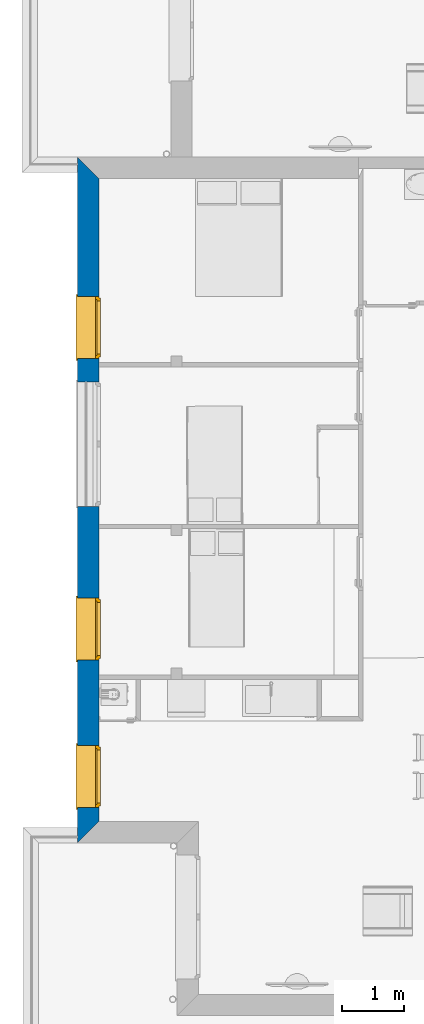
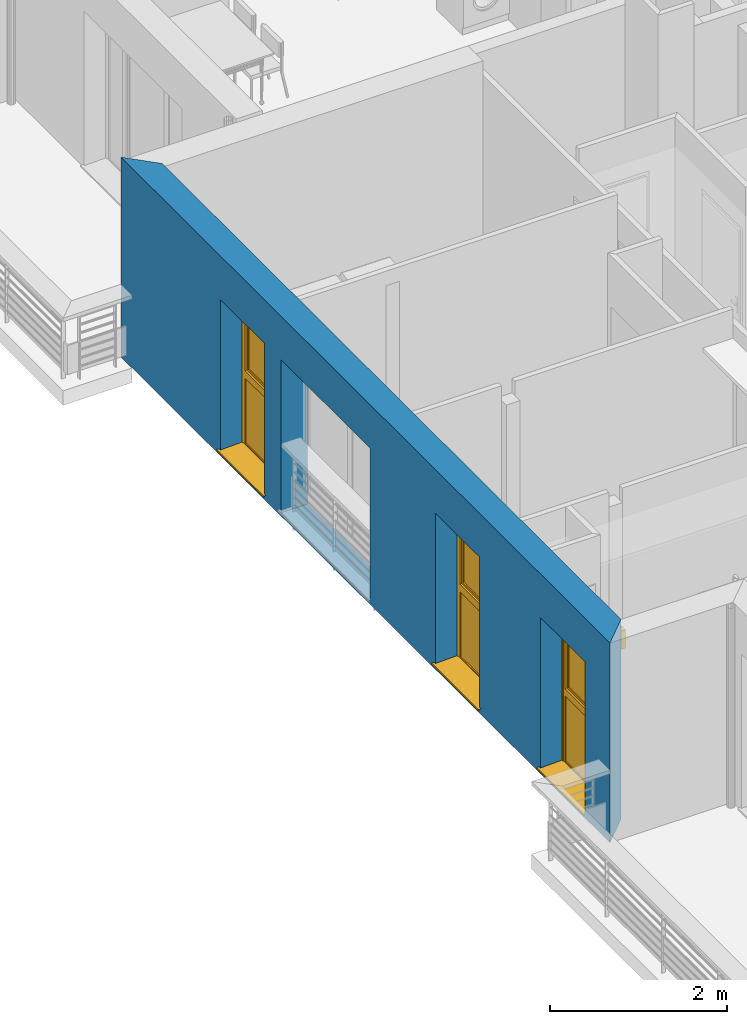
# One storey, part 8 of 164: 3 windows, 1 wall, 4 openings.
"""IFC2X3 building model written with IfcOpenShell, lengths in millimetres."""

import ifcopenshell
import ifcopenshell.guid

model = None  # the IFC model being written
_history = None  # IfcOwnerHistory: only IFC2X3 demands one
_inside = {}  # id of a spatial element -> (the spatial element, [elements in it])
_under = {}  # id of a project, library or spatial element -> (it, [spatial elements below it])
_declared = {}  # id of a project -> (the project, [libraries it declares])
_typed = {}  # id of a type object -> (the type object, [elements of that type])
_made_of = {}  # id of a material, layer set ... -> (it, [elements and type objects made of it])


def new_model(schema):
    """Start an empty IFC model of exactly this schema.

    Asked for "IFC4X3", IfcOpenShell would pick the latest addendum, in which some entities
    have other attributes; the version numbers below select the first issue.
    IFC2X3 requires an IfcOwnerHistory on every rooted entity: one is made here for all.
    """
    global model, _history
    if schema == "IFC4X3":
        model = ifcopenshell.file(schema_version=(4, 3, 0, 0))
    else:
        model = ifcopenshell.file(schema=schema)
    _inside.clear()
    _under.clear()
    _declared.clear()
    _typed.clear()
    _made_of.clear()
    _history = None
    if model.schema == "IFC2X3":
        org = make("IfcOrganization", Name="unknown")
        user = make(
            "IfcPersonAndOrganization",
            ThePerson=make("IfcPerson", FamilyName="unknown"),
            TheOrganization=org,
        )
        app = make(
            "IfcApplication",
            ApplicationDeveloper=org,
            Version="unknown",
            ApplicationFullName="unknown",
            ApplicationIdentifier="unknown",
        )
        _history = make(
            "IfcOwnerHistory",
            OwningUser=user,
            OwningApplication=app,
            ChangeAction="ADDED",
            CreationDate=0,
        )
    return model


def make(cls, **values):
    """One entity of the class cls with the attributes given. An attribute that is None is left unset."""
    return model.create_entity(
        cls, **{name: value for name, value in values.items() if value is not None}
    )


def entity(cls, *values):
    """Any entity or typed value of the class cls, its attributes in the order of the schema. None: left unset."""
    e = model.create_entity(cls)
    for i, value in enumerate(values):
        if value is not None:
            e[i] = value
    return e


def rooted(cls, **values):
    """An entity with a GlobalId (a new one), such as an element, a storey or a relation."""
    return make(cls, GlobalId=ifcopenshell.guid.new(), OwnerHistory=_history, **values)


def si_unit(unit_type, name, prefix=None):
    """IfcSIUnit, for example si_unit("LENGTHUNIT", "METRE", prefix="MILLI")."""
    return make("IfcSIUnit", UnitType=unit_type, Prefix=prefix, Name=name)


def converted_unit(unit_type, name, factor, base, dimensions=None, offset=None):
    """IfcConversionBasedUnit, such as the inch: factor (a typed value) times the base unit."""
    return make(
        "IfcConversionBasedUnit"
        if offset is None
        else "IfcConversionBasedUnitWithOffset",
        ConversionOffset=offset,
        Dimensions=None
        if dimensions is None
        else entity("IfcDimensionalExponents", *dimensions),
        UnitType=unit_type,
        Name=name,
        ConversionFactor=make(
            "IfcMeasureWithUnit", ValueComponent=factor, UnitComponent=base
        ),
    )


def derived_unit(unit_type, elements):
    """IfcDerivedUnit: a product of units, each with its exponent."""
    return make(
        "IfcDerivedUnit",
        Elements=[
            make("IfcDerivedUnitElement", Unit=unit, Exponent=power)
            for unit, power in elements
        ],
        UnitType=unit_type,
    )


def money_unit(currency):
    """IfcMonetaryUnit."""
    return make("IfcMonetaryUnit", Currency=currency)


def assignment(units):
    """IfcUnitAssignment: the units of a project."""
    return None if units is None else make("IfcUnitAssignment", Units=units)


def point(xyz):
    """IfcCartesianPoint."""
    return None if xyz is None else make("IfcCartesianPoint", Coordinates=xyz)


def direction(xyz):
    """IfcDirection."""
    return None if xyz is None else make("IfcDirection", DirectionRatios=xyz)


def frame(location, z_axis=None, x_axis=None):
    """IfcAxis2Placement3D, a coordinate frame: its origin and axes. An axis left out is left unset."""
    return make(
        "IfcAxis2Placement3D",
        Location=point(location),
        Axis=direction(z_axis),
        RefDirection=direction(x_axis),
    )


def origin_with_axes():
    """The frame at (0, 0, 0) with the z axis (0, 0, 1) and the x axis (1, 0, 0) written out."""
    return frame((0.0, 0.0, 0.0), z_axis=(0.0, 0.0, 1.0), x_axis=(1.0, 0.0, 0.0))


def place(relative_to, where):
    """IfcLocalPlacement: puts the frame where relative to a parent placement (None: the world)."""
    return make(
        "IfcLocalPlacement", PlacementRelTo=relative_to, RelativePlacement=where
    )


def context(
    kind, dimensions, precision=None, world=None, true_north=None, identifier=None
):
    """IfcGeometricRepresentationContext, for example the 3D "Model" context."""
    return make(
        "IfcGeometricRepresentationContext",
        ContextIdentifier=identifier,
        ContextType=kind,
        CoordinateSpaceDimension=dimensions,
        Precision=precision,
        WorldCoordinateSystem=world,
        TrueNorth=true_north,
    )


def subcontext(parent, identifier, kind, view, scale=None):
    """IfcGeometricRepresentationSubContext, for example "Body" below "Model"."""
    return make(
        "IfcGeometricRepresentationSubContext",
        ContextIdentifier=identifier,
        ContextType=kind,
        ParentContext=parent,
        TargetScale=scale,
        TargetView=view,
    )


def project(units=None, contexts=None):
    """IfcProject with its units and contexts."""
    return rooted(
        "IfcProject",
        Name="project",
        RepresentationContexts=contexts,
        UnitsInContext=assignment(units),
    )


def spatial(cls, under=None, at=None, **own):
    """A site, building, storey or space (cls), placed at a placement, below another one or the project."""
    s = rooted(cls, ObjectPlacement=at, **own)
    if under is not None:
        _under.setdefault(under.id(), (under, []))[1].append(s)
    return s


def polyline(points):
    """IfcPolyline through the points."""
    return make("IfcPolyline", Points=[point(p) for p in points])


def outline(outer, holes=None, kind="AREA"):
    """IfcArbitraryClosedProfileDef: a profile drawn as a closed curve; with holes, ...WithVoids."""
    if holes is None:
        return make("IfcArbitraryClosedProfileDef", ProfileType=kind, OuterCurve=outer)
    return make(
        "IfcArbitraryProfileDefWithVoids",
        ProfileType=kind,
        OuterCurve=outer,
        InnerCurves=holes,
    )


def extrude(swept, where, along, depth):
    """IfcExtrudedAreaSolid: the profile swept, set in the frame where, extruded along a direction by depth."""
    return make(
        "IfcExtrudedAreaSolid",
        SweptArea=swept,
        Position=where,
        ExtrudedDirection=direction(along),
        Depth=depth,
    )


def faces_of(points, faces, orient=None, outer=None):
    """IfcFace entities. A face is a list of loops; a loop is a list of indices into points, from 0.

    orient and outer hold one flag for each loop. By default every Orientation is true, the
    first loop of a face is its IfcFaceOuterBound and the others are IfcFaceBound.
    """
    made = []
    for i, loops in enumerate(faces):
        bounds = []
        for j, loop in enumerate(loops):
            is_outer = j == 0 if outer is None else outer[i][j]
            bounds.append(
                make(
                    "IfcFaceOuterBound" if is_outer else "IfcFaceBound",
                    Bound=make("IfcPolyLoop", Polygon=[points[k] for k in loop]),
                    Orientation=True if orient is None else orient[i][j],
                )
            )
        made.append(make("IfcFace", Bounds=bounds))
    return made


def open_shell(faces, orient=None, outer=None):
    """The faces of one IfcOpenShell. surface_model builds it on its shared points."""
    return ("IfcOpenShell", faces, orient, outer)


def faceted_brep(points, faces, orient=None, outer=None, voids=None):
    """IfcFacetedBrep: a solid bounded by flat faces; with voids (closed shells), ...WithVoids."""
    shared = [point(p) for p in points]
    hull = make("IfcClosedShell", CfsFaces=faces_of(shared, faces, orient, outer))
    if voids is None:
        return make("IfcFacetedBrep", Outer=hull)
    return make(
        "IfcFacetedBrepWithVoids",
        Outer=hull,
        Voids=[
            make(cls, CfsFaces=faces_of(shared, fs, o, b)) for cls, fs, o, b in voids
        ],
    )


def surface_model(cls, points, shells):
    """IfcFaceBasedSurfaceModel or IfcShellBasedSurfaceModel (cls): surfaces that need not close."""
    shared = [point(p) for p in points]
    made = [make(c, CfsFaces=faces_of(shared, fs, o, b)) for c, fs, o, b in shells]
    if cls == "IfcFaceBasedSurfaceModel":
        return make(cls, FbsmFaces=made)
    return make(cls, SbsmBoundary=made)


def shape(context_of_items, identifier, shape_type, items):
    """IfcShapeRepresentation: the items that make up one representation, for example the "Body"."""
    return make(
        "IfcShapeRepresentation",
        ContextOfItems=context_of_items,
        RepresentationIdentifier=identifier,
        RepresentationType=shape_type,
        Items=items,
    )


def source(mapping_origin, context_of_items, identifier, shape_type, items):
    """IfcRepresentationMap: a shape defined once, which mapped items show again and again."""
    return make(
        "IfcRepresentationMap",
        MappingOrigin=mapping_origin,
        MappedRepresentation=shape(context_of_items, identifier, shape_type, items),
    )


def transform(
    local_origin,
    x_axis=None,
    y_axis=None,
    z_axis=None,
    scale=None,
    scale2=None,
    scale3=None,
    uniform=True,
):
    """IfcCartesianTransformationOperator3D, or its non-uniform kind. x_axis, y_axis, z_axis: its Axis1, 2, 3."""
    if uniform:
        return make(
            "IfcCartesianTransformationOperator3D",
            Axis1=direction(x_axis),
            Axis2=direction(y_axis),
            LocalOrigin=point(local_origin),
            Scale=scale,
            Axis3=direction(z_axis),
        )
    return make(
        "IfcCartesianTransformationOperator3DnonUniform",
        Axis1=direction(x_axis),
        Axis2=direction(y_axis),
        LocalOrigin=point(local_origin),
        Scale=scale,
        Axis3=direction(z_axis),
        Scale2=scale2,
        Scale3=scale3,
    )


def mapped(mapping_source, mapping_target):
    """IfcMappedItem: shows the shape of a source again, moved by a transform."""
    return make(
        "IfcMappedItem", MappingSource=mapping_source, MappingTarget=mapping_target
    )


def material(Name=None, Category=None):
    """IfcMaterial."""
    return make("IfcMaterial", Name=Name, Category=Category)


def layer(
    of_material, thickness, ventilated=None, Name=None, Category=None, Priority=None
):
    """IfcMaterialLayer: one layer of a wall or slab, of a material (None: an air gap)."""
    return make(
        "IfcMaterialLayer",
        Material=of_material,
        LayerThickness=thickness,
        IsVentilated=ventilated,
        Name=Name,
        Category=Category,
        Priority=Priority,
    )


def layer_set(layers, Name=None):
    """IfcMaterialLayerSet."""
    return make("IfcMaterialLayerSet", MaterialLayers=layers, LayerSetName=Name)


def layer_usage(for_layer_set, set_direction, sense, offset, extent=None):
    """IfcMaterialLayerSetUsage: how a layer set lies in its element."""
    return make(
        "IfcMaterialLayerSetUsage",
        ForLayerSet=for_layer_set,
        LayerSetDirection=set_direction,
        DirectionSense=sense,
        OffsetFromReferenceLine=offset,
        ReferenceExtent=extent,
    )


def made_of(thing, what):
    """Note that an element or type object is made of a material, layer set ...; save() writes the relation."""
    if what is not None:
        _made_of.setdefault(what.id(), (what, []))[1].append(thing)
    return thing


def type_object(cls, material=None, **own):
    """A type object (cls), such as IfcWallType, which elements share."""
    return made_of(rooted(cls, **own), material)


def element(
    cls,
    number,
    at=None,
    inside=None,
    cuts=None,
    type_object=None,
    material=None,
    context=None,
    identifier="Body",
    shape_type=None,
    held_by="IfcProductDefinitionShape",
    body=None,
    shapes=None,
    **own,
):
    """One element of the class cls, such as IfcWall. Its Tag is "e" and its number.

    at: its placement. inside: the storey or other place that contains it. cuts: it is an
    opening in that element (IfcRelVoidsElement). A single representation is given by context,
    identifier, shape_type and body (its items); several are given by shapes. held_by: the class
    of the entity that holds the representations. save() writes the other relations.
    """
    e = rooted(cls, Tag="e%d" % number, ObjectPlacement=at, **own)
    if body is not None:
        shapes = [shape(context, identifier, shape_type, body)]
    if shapes is not None:
        e.Representation = make(held_by, Representations=shapes)
    if inside is not None:
        _inside.setdefault(inside.id(), (inside, []))[1].append(e)
    if cuts is not None:
        rooted(
            "IfcRelVoidsElement", RelatingBuildingElement=cuts, RelatedOpeningElement=e
        )
    if type_object is not None:
        _typed.setdefault(type_object.id(), (type_object, []))[1].append(e)
    return made_of(e, material)


def fill(opening, filler):
    """IfcRelFillsElement: the door or window that sits in an opening."""
    return rooted(
        "IfcRelFillsElement",
        RelatingOpeningElement=opening,
        RelatedBuildingElement=filler,
    )


def aggregate(whole, parts):
    """IfcRelAggregates: a whole, such as a stair, and the parts it consists of."""
    return rooted("IfcRelAggregates", RelatingObject=whole, RelatedObjects=parts)


def save(model, path):
    """Write the relations noted so far, then the file.

    IfcRelAggregates (storeys below a building ...), IfcRelContainedInSpatialStructure (elements
    in a storey), IfcRelDefinesByType, IfcRelAssociatesMaterial and IfcRelDeclares: one each for
    every whole, place, type object, material and project.
    """
    for whole, parts in _under.values():
        aggregate(whole, parts)
    for where, things in _inside.values():
        rooted(
            "IfcRelContainedInSpatialStructure",
            RelatedElements=things,
            RelatingStructure=where,
        )
    for kind, things in _typed.values():
        rooted("IfcRelDefinesByType", RelatedObjects=things, RelatingType=kind)
    for what, things in _made_of.values():
        rooted("IfcRelAssociatesMaterial", RelatedObjects=things, RelatingMaterial=what)
    for by, libraries in _declared.values():
        rooted("IfcRelDeclares", RelatingContext=by, RelatedDefinitions=libraries)
    model.write(path)


model = new_model("IFC2X3")

# Units and contexts
model_context = context("Model", 3, precision=0.01, world=origin_with_axes(), true_north=direction((0.0, 1.0)))
body_context = subcontext(model_context, "Body", "Model", "MODEL_VIEW")
ifc_project = project(units=[si_unit("LENGTHUNIT", "METRE", prefix="MILLI"), si_unit("AREAUNIT", "SQUARE_METRE"), si_unit("VOLUMEUNIT", "CUBIC_METRE"), converted_unit("PLANEANGLEUNIT", "DEGREE", entity("IfcPlaneAngleMeasure", 0.0174532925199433), si_unit("PLANEANGLEUNIT", "RADIAN"), dimensions=[0, 0, 0, 0, 0, 0, 0]), money_unit("USD"), converted_unit("TIMEUNIT", "Year", entity("IfcTimeMeasure", 31557600.0), si_unit("TIMEUNIT", "SECOND"), dimensions=[0, 0, 1, 0, 0, 0, 0]), si_unit("MASSUNIT", "GRAM", prefix="KILO"), si_unit("THERMODYNAMICTEMPERATUREUNIT", "DEGREE_CELSIUS"), si_unit("LUMINOUSINTENSITYUNIT", "LUMEN"), si_unit("ENERGYUNIT", "JOULE", prefix="MEGA"), derived_unit("THERMALCONDUCTANCEUNIT", [(si_unit("POWERUNIT", "WATT"), 1), (si_unit("LENGTHUNIT", "METRE"), -1), (si_unit("THERMODYNAMICTEMPERATUREUNIT", "KELVIN"), -1)]), derived_unit("SPECIFICHEATCAPACITYUNIT", [(si_unit("ENERGYUNIT", "JOULE"), 1), (si_unit("MASSUNIT", "GRAM", prefix="KILO"), -1), (si_unit("THERMODYNAMICTEMPERATUREUNIT", "KELVIN"), -1)]), derived_unit("MASSDENSITYUNIT", [(si_unit("MASSUNIT", "GRAM", prefix="KILO"), 1), (si_unit("VOLUMEUNIT", "CUBIC_METRE"), -1)])], contexts=[model_context])

# Site, building, storey
site_placement = place(None, origin_with_axes())
site = spatial("IfcSite", under=ifc_project, at=site_placement, Name="Site", CompositionType="ELEMENT")
building_placement = place(site_placement, origin_with_axes())
building = spatial("IfcBuilding", under=site, at=building_placement, Name="Bâtiment", CompositionType="ELEMENT")
storey_placement = place(building_placement, frame((0.0, 0.0, 5750.0), z_axis=(0.0, 0.0, 1.0), x_axis=(1.0, 0.0, 0.0)))
storey = spatial("IfcBuildingStorey", under=building, at=storey_placement, Name="Etage1", CompositionType="ELEMENT", Elevation=5750.0)

# Wall, openings, windows
ifc_material_1 = material(Name="Parpaing 312445824")
ifc_layer_1 = layer(ifc_material_1, 180.0, ventilated="UNKNOWN")
ifc_material_2 = material(Name="Isolant styromousse 301821074")
ifc_layer_2 = layer(ifc_material_2, 160.0, ventilated="UNKNOWN")
ifc_layer_set = layer_set([ifc_layer_1, ifc_layer_2], Name="isol int 18+16 0018356637")
ifc_layer_usage = layer_usage(ifc_layer_set, "AXIS2", "POSITIVE", 0.0)
wall_type = type_object("IfcWallType", Name="isol int 18+16 0018356637 340", PredefinedType="NOTDEFINED")
wall_placement = place(storey_placement, frame((2216634.233344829, -644016.3765232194, 0.0), z_axis=(0.0, 0.0, 1.0), x_axis=(0.0, -1.0, 0.0)))
wall = element("IfcWallStandardCase", 1, at=wall_placement, inside=storey, type_object=wall_type, material=ifc_layer_usage, Name="Mur-145", context=body_context, shape_type="SweptSolid", body=[
    extrude(outline(polyline([(0.0, 0.0), (11025.09125507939, 0.0), (10685.09125507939, 340.0000000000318), (339.9999957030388, 340.0000000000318), (0.0, 0.0)])), origin_with_axes(), (0.0, 0.0, 1.0), 2750.0),
])
opening_1_placement = place(wall_placement, frame((2741.247963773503, 1.13686837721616e-10, 49.99999999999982), z_axis=(0.0, 0.0, 1.0), x_axis=(1.0, 0.0, 0.0)))
opening_1 = element("IfcOpeningElement", 2, at=opening_1_placement, cuts=wall, Name="Fen-133", context=body_context, shape_type="Brep", body=[
    faceted_brep([(-500.0, 290.0000000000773, 2100.0), (-500.0, 341.0000000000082, 2100.0), (-500.0, 341.0000000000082, 0.0), (-500.0, 290.0000000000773, 0.0), (-500.0, 280.0000000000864, 2100.0), (-500.0, 280.0000000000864, 2350.0), (-500.0, 530.0000000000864, 2350.0), (-500.0, 530.0000000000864, 2100.0), (500.0, 341.0000000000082, 2100.0), (500.0, 341.0000000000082, 0.0), (500.0, 290.0000000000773, 0.0), (500.0, -0.9999999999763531, 0.0), (-500.0, -0.9999999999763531, 0.0), (-500.0, -0.9999999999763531, 2100.0), (500.0, 280.0000000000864, 2100.0), (500.0, 280.0000000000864, 2350.0), (500.0, 530.0000000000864, 2350.0), (500.0, 530.0000000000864, 2100.0), (500.0, 290.0000000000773, 2100.0), (500.0, -0.9999999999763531, 2100.0)], [[[0, 1, 2, 3]], [[1, 0, 4, 5, 6, 7]], [[1, 8, 9, 2]], [[10, 11, 12, 3, 2, 9]], [[4, 0, 3, 12, 13]], [[4, 14, 15, 5]], [[15, 16, 6, 5]], [[16, 17, 7, 6]], [[8, 1, 7, 17]], [[8, 18, 10, 9]], [[18, 14, 19, 11, 10]], [[13, 12, 11, 19]], [[14, 4, 13, 19]], [[18, 8, 17, 16, 15, 14]]]),
])
opening_2_placement = place(wall_placement, frame((7587.273470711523, 1.13686837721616e-10, 49.99999999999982), z_axis=(0.0, 0.0, 1.0), x_axis=(1.0, 0.0, 0.0)))
opening_2 = element("IfcOpeningElement", 3, at=opening_2_placement, cuts=wall, Name="Fen-133", context=body_context, shape_type="Brep", body=[
    faceted_brep([(-500.0, 290.0000000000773, 2100.0), (-500.0, 341.0000000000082, 2100.0), (-500.0, 341.0000000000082, 0.0), (-500.0, 290.0000000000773, 0.0), (-500.0, 280.0000000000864, 2100.0), (-500.0, 280.0000000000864, 2350.0), (-500.0, 530.0000000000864, 2350.0), (-500.0, 530.0000000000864, 2100.0), (500.0, 341.0000000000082, 2100.0), (500.0, 341.0000000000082, 0.0), (500.0, 290.0000000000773, 0.0), (500.0, -0.9999999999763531, 0.0), (-500.0, -0.9999999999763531, 0.0), (-500.0, -0.9999999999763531, 2100.0), (500.0, 280.0000000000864, 2100.0), (500.0, 280.0000000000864, 2350.0), (500.0, 530.0000000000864, 2350.0), (500.0, 530.0000000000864, 2100.0), (500.0, 290.0000000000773, 2100.0), (500.0, -0.9999999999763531, 2100.0)], [[[0, 1, 2, 3]], [[1, 0, 4, 5, 6, 7]], [[1, 8, 9, 2]], [[10, 11, 12, 3, 2, 9]], [[4, 0, 3, 12, 13]], [[4, 14, 15, 5]], [[15, 16, 6, 5]], [[16, 17, 7, 6]], [[8, 1, 7, 17]], [[8, 18, 10, 9]], [[18, 14, 19, 11, 10]], [[13, 12, 11, 19]], [[14, 4, 13, 19]], [[18, 8, 17, 16, 15, 14]]]),
])
opening_3_placement = place(wall_placement, frame((4613.390906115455, 1.13686837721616e-10, 49.99999999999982), z_axis=(0.0, 0.0, 1.0), x_axis=(1.0, 0.0, 0.0)))
element("IfcOpeningElement", 4, at=opening_3_placement, cuts=wall, Name="Fen-207", context=body_context, shape_type="Brep", body=[
    faceted_brep([(-1000.0, 290.0000000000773, 2100.0), (-1000.0, 341.0000000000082, 2100.0), (-1000.0, 341.0000000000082, 0.0), (-1000.0, 290.0000000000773, 0.0), (-1000.0, 280.0000000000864, 2100.0), (-1000.0, 280.0000000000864, 2350.0), (-1000.0, 530.0000000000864, 2350.0), (-1000.0, 530.0000000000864, 2100.0), (1000.0, 341.0000000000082, 2100.0), (1000.0, 341.0000000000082, 0.0), (1000.0, 290.0000000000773, 0.0), (1000.0, -0.9999999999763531, 0.0), (-1000.0, -0.9999999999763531, 0.0), (-1000.0, -0.9999999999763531, 2100.0), (1000.0, 280.0000000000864, 2100.0), (1000.0, 280.0000000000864, 2350.0), (1000.0, 530.0000000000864, 2350.0), (1000.0, 530.0000000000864, 2100.0), (1000.0, 290.0000000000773, 2100.0), (1000.0, -0.9999999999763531, 2100.0)], [[[0, 1, 2, 3]], [[1, 0, 4, 5, 6, 7]], [[1, 8, 9, 2]], [[10, 11, 12, 3, 2, 9]], [[4, 0, 3, 12, 13]], [[4, 14, 15, 5]], [[6, 5, 15, 16]], [[7, 6, 16, 17]], [[8, 1, 7, 17]], [[8, 18, 10, 9]], [[18, 14, 19, 11, 10]], [[13, 12, 11, 19]], [[14, 4, 13, 19]], [[18, 8, 17, 16, 15, 14]]]),
])
opening_4_placement = place(wall_placement, frame((9957.84302010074, 1.13686837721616e-10, 49.99999999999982), z_axis=(0.0, 0.0, 1.0), x_axis=(1.0, 0.0, 0.0)))
opening_4 = element("IfcOpeningElement", 5, at=opening_4_placement, cuts=wall, Name="Fen-133", context=body_context, shape_type="Brep", body=[
    faceted_brep([(-500.0, 290.0000000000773, 2100.0), (-500.0, 341.0000000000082, 2100.0), (-500.0, 341.0000000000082, 0.0), (-500.0, 290.0000000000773, 0.0), (-500.0, 280.0000000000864, 2100.0), (-500.0, 280.0000000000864, 2350.0), (-500.0, 530.0000000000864, 2350.0), (-500.0, 530.0000000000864, 2100.0), (500.0, 341.0000000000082, 2100.0), (500.0, 341.0000000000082, 0.0), (500.0, 290.0000000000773, 0.0), (500.0, -0.9999999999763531, 0.0), (-500.0, -0.9999999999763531, 0.0), (-500.0, -0.9999999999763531, 2100.0), (500.0, 280.0000000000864, 2100.0), (500.0, 280.0000000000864, 2350.0), (500.0, 530.0000000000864, 2350.0), (500.0, 530.0000000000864, 2100.0), (500.0, 290.0000000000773, 2100.0), (500.0, -0.9999999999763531, 2100.0)], [[[0, 1, 2, 3]], [[1, 0, 4, 5, 6, 7]], [[1, 8, 9, 2]], [[10, 11, 12, 3, 2, 9]], [[4, 0, 3, 12, 13]], [[4, 14, 15, 5]], [[15, 16, 6, 5]], [[16, 17, 7, 6]], [[8, 1, 7, 17]], [[8, 18, 10, 9]], [[18, 14, 19, 11, 10]], [[13, 12, 11, 19]], [[14, 4, 13, 19]], [[18, 8, 17, 16, 15, 14]]]),
])
window_style = type_object("IfcWindowStyle", Name="Fenêtre 27", ConstructionType="NOTDEFINED", OperationType="DOUBLE_PANEL_HORIZONTAL", ParameterTakesPrecedence=False, Sizeable=False)
shared_shape = source(origin_with_axes(), body_context, "Body", "SurfaceModel", [
    surface_model("IfcShellBasedSurfaceModel", [(500.0, -51.00000000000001, 40.00000000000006), (500.0, -51.00000000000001, 50.00000000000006), (-500.0, -51.00000000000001, 50.0), (-500.0, -51.00000000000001, 40.0), (530.0, -369.9999999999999, 28.96551724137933), (530.0, -339.9999999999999, 30.00324289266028), (500.0, -339.9999999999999, 30.00324289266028), (-500.0, -339.9999999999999, 30.00324289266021), (-530.0, -339.9999999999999, 30.00324289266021), (-530.0, -369.9999999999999, 28.96551724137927), (530.0, -369.9999999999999, 8.96551724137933), (-530.0, -369.9999999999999, 8.965517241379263), (530.0, -359.9999999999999, 18.96551724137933), (-530.0, -359.9999999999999, 18.96551724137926)], [open_shell([[[0, 1, 2, 3]], [[4, 5, 6, 0, 3, 7, 8, 9]], [[10, 4, 9, 11]], [[12, 10, 11, 13]]])]),
    faceted_brep([(-500.0, -59.99999999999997, 2350.0), (-497.0, -59.99999999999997, 2350.0), (-497.0, 190.0, 2350.0), (-500.0, 190.0, 2350.0), (-500.0, -59.99999999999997, 2100.0), (-497.0, -59.99999999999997, 2100.0), (-497.0, 190.0, 2100.0), (-500.0, 190.0, 2100.0)], [[[0, 1, 2, 3]], [[4, 5, 1, 0]], [[1, 5, 6, 2]], [[3, 2, 6, 7]], [[0, 3, 7, 4]], [[7, 6, 5, 4]]]),
    faceted_brep([(497.0, -59.99999999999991, 2350.0), (500.0, -59.99999999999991, 2350.0), (500.0, 190.0000000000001, 2350.0), (497.0, 190.0000000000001, 2350.0), (497.0, -59.99999999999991, 2100.0), (500.0, -59.99999999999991, 2100.0), (500.0, 190.0000000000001, 2100.0), (497.0, 190.0000000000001, 2100.0)], [[[0, 1, 2, 3]], [[4, 5, 1, 0]], [[1, 5, 6, 2]], [[3, 2, 6, 7]], [[0, 3, 7, 4]], [[7, 6, 5, 4]]]),
    faceted_brep([(-497.0, -60.0, 2100.0), (497.0, -59.99999999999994, 2100.0), (497.0, -59.99999999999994, 2350.0), (-497.0, -60.0, 2350.0), (-497.0, -56.99999999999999, 2100.0), (497.0, -56.99999999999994, 2100.0), (497.0, -56.99999999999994, 2347.0), (497.0, 187.0000000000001, 2347.0), (497.0, 187.0000000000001, 2103.0), (497.0, -37.99999999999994, 2103.0), (497.0, -37.99999999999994, 2100.0), (497.0, 190.0000000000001, 2100.0), (497.0, 190.0000000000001, 2350.0), (-497.0, 190.0, 2350.0), (-497.0, 190.0, 2100.0), (-497.0, -37.99999999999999, 2100.0), (-497.0, -37.99999999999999, 2103.0), (-497.0, 187.0, 2103.0), (-497.0, 187.0, 2347.0), (-497.0, -56.99999999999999, 2347.0)], [[[0, 1, 2, 3]], [[4, 5, 1, 0]], [[1, 5, 6, 7, 8, 9, 10, 11, 12, 2]], [[3, 2, 12, 13]], [[0, 3, 13, 14, 15, 16, 17, 18, 19, 4]], [[19, 6, 5, 4]], [[18, 7, 6, 19]], [[17, 8, 7, 18]], [[16, 9, 8, 17]], [[15, 10, 9, 16]], [[14, 11, 10, 15]], [[13, 12, 11, 14]]]),
    faceted_brep([(-494.0, -40.37442957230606, 2206.419644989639), (-494.0, -41.99999999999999, 2225.0), (-494.0, -40.37442957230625, 2243.580355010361), (-494.0, -35.54711042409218, 2261.596155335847), (-494.0, -27.66471820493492, 2278.5), (-494.0, -16.96675541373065, 2293.77827423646), (-494.0, -3.778274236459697, 2306.966755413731), (-494.0, 11.5, 2317.664718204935), (-494.0, 28.40384466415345, 2325.547110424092), (-494.0, 46.41964498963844, 2330.374429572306), (-494.0, 64.99999999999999, 2332.0), (-494.0, 83.58035501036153, 2330.374429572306), (-494.0, 101.5961553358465, 2325.547110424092), (-494.0, 118.5, 2317.664718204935), (-494.0, 133.7782742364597, 2306.966755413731), (-494.0, 146.9667554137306, 2293.77827423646), (-494.0, 157.6647182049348, 2278.5), (-494.0, 165.5471104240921, 2261.596155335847), (-494.0, 170.3744295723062, 2243.580355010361), (-494.0, 171.9999999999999, 2225.0), (-494.0, 170.3744295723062, 2206.419644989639), (-494.0, 165.5471104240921, 2188.403844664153), (-494.0, 157.6647182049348, 2171.5), (-494.0, 146.9667554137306, 2156.22172576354), (-494.0, 133.7782742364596, 2143.03324458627), (-494.0, 118.4999999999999, 2132.335281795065), (-494.0, 101.5961553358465, 2124.452889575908), (-494.0, 83.58035501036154, 2119.625570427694), (-494.0, 65.00000000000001, 2118.0), (-494.0, 46.4196449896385, 2119.625570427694), (-494.0, 28.40384466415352, 2124.452889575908), (-494.0, 11.50000000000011, 2132.335281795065), (-494.0, -3.778274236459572, 2143.03324458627), (-494.0, -16.9667554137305, 2156.22172576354), (-494.0, -27.66471820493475, 2171.5), (-494.0, -35.54711042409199, 2188.403844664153), (494.0, -40.374429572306, 2206.419644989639), (494.0, -41.99999999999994, 2225.0), (494.0, -40.37442957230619, 2243.580355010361), (494.0, -35.54711042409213, 2261.596155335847), (494.0, -27.66471820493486, 2278.5), (494.0, -16.96675541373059, 2293.77827423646), (494.0, -3.778274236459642, 2306.966755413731), (494.0, 11.50000000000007, 2317.664718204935), (494.0, 28.40384466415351, 2325.547110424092), (494.0, 46.41964498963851, 2330.374429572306), (494.0, 65.00000000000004, 2332.0), (494.0, 83.58035501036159, 2330.374429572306), (494.0, 101.5961553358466, 2325.547110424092), (494.0, 118.5, 2317.664718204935), (494.0, 133.7782742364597, 2306.966755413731), (494.0, 146.9667554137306, 2293.77827423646), (494.0, 157.6647182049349, 2278.5), (494.0, 165.5471104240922, 2261.596155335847), (494.0, 170.3744295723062, 2243.580355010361), (494.0, 172.0, 2225.0), (494.0, 170.3744295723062, 2206.419644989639), (494.0, 165.5471104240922, 2188.403844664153), (494.0, 157.6647182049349, 2171.5), (494.0, 146.9667554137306, 2156.22172576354), (494.0, 133.7782742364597, 2143.03324458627), (494.0, 118.5, 2132.335281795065), (494.0, 101.5961553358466, 2124.452889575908), (494.0, 83.5803550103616, 2119.625570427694), (494.0, 65.00000000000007, 2118.0), (494.0, 46.41964498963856, 2119.625570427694), (494.0, 28.40384466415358, 2124.452889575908), (494.0, 11.50000000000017, 2132.335281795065), (494.0, -3.778274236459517, 2143.03324458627), (494.0, -16.96675541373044, 2156.22172576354), (494.0, -27.6647182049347, 2171.5), (494.0, -35.54711042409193, 2188.403844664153)], [[[0, 1, 2, 3, 4, 5, 6, 7, 8, 9, 10, 11, 12, 13, 14, 15, 16, 17, 18, 19, 20, 21, 22, 23, 24, 25, 26, 27, 28, 29, 30, 31, 32, 33, 34, 35]], [[0, 36, 37, 1]], [[1, 37, 38, 2]], [[2, 38, 39, 3]], [[3, 39, 40, 4]], [[4, 40, 41, 5]], [[5, 41, 42, 6]], [[6, 42, 43, 7]], [[7, 43, 44, 8]], [[8, 44, 45, 9]], [[9, 45, 46, 10]], [[10, 46, 47, 11]], [[11, 47, 48, 12]], [[12, 48, 49, 13]], [[13, 49, 50, 14]], [[14, 50, 51, 15]], [[15, 51, 52, 16]], [[16, 52, 53, 17]], [[17, 53, 54, 18]], [[18, 54, 55, 19]], [[19, 55, 56, 20]], [[20, 56, 57, 21]], [[21, 57, 58, 22]], [[22, 58, 59, 23]], [[23, 59, 60, 24]], [[24, 60, 61, 25]], [[25, 61, 62, 26]], [[26, 62, 63, 27]], [[27, 63, 64, 28]], [[28, 64, 65, 29]], [[29, 65, 66, 30]], [[30, 66, 67, 31]], [[31, 67, 68, 32]], [[32, 68, 69, 33]], [[33, 69, 70, 34]], [[34, 70, 71, 35]], [[35, 71, 36, 0]], [[36, 71, 70, 69, 68, 67, 66, 65, 64, 63, 62, 61, 60, 59, 58, 57, 56, 55, 54, 53, 52, 51, 50, 49, 48, 47, 46, 45, 44, 43, 42, 41, 40, 39, 38, 37]]]),
    faceted_brep([(500.0, -34.99999999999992, 30.0), (500.0, -34.99999999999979, 2100.0), (500.0, -59.99999999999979, 2100.0), (500.0, -59.99999999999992, 30.0), (475.0, -34.99999999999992, 30.0), (475.0, -34.99999999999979, 2100.0), (475.0, -37.99999999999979, 2100.0), (497.0, -37.99999999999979, 2100.0), (497.0, -56.99999999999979, 2100.0), (475.0, -56.99999999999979, 2100.0), (475.0, -59.99999999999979, 2100.0), (475.0, -59.99999999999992, 30.0), (475.0, -56.99999999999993, 30.0), (497.0, -56.99999999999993, 30.0), (497.0, -37.99999999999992, 30.0), (475.0, -37.99999999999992, 30.0)], [[[0, 1, 2, 3]], [[4, 5, 1, 0]], [[1, 5, 6, 7, 8, 9, 10, 2]], [[3, 2, 10, 11]], [[0, 3, 11, 12, 13, 14, 15, 4]], [[15, 6, 5, 4]], [[14, 7, 6, 15]], [[13, 8, 7, 14]], [[12, 9, 8, 13]], [[11, 10, 9, 12]]]),
    faceted_brep([(-500.0, -34.99999999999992, 30.0), (-500.0, -59.99999999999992, 30.0), (-500.0, -59.99999999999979, 2100.0), (-500.0, -34.99999999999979, 2100.0), (-475.0, -34.99999999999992, 30.0), (-475.0, -37.99999999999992, 30.0), (-497.0, -37.99999999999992, 30.0), (-497.0, -56.99999999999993, 30.0), (-475.0, -56.99999999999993, 30.0), (-475.0, -59.99999999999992, 30.0), (-475.0, -59.99999999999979, 2100.0), (-475.0, -56.99999999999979, 2100.0), (-497.0, -56.99999999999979, 2100.0), (-497.0, -37.99999999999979, 2100.0), (-475.0, -37.99999999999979, 2100.0), (-475.0, -34.99999999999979, 2100.0)], [[[0, 1, 2, 3]], [[0, 4, 5, 6, 7, 8, 9, 1]], [[1, 9, 10, 2]], [[3, 2, 10, 11, 12, 13, 14, 15]], [[4, 0, 3, 15]], [[5, 4, 15, 14]], [[6, 5, 14, 13]], [[7, 6, 13, 12]], [[8, 7, 12, 11]], [[9, 8, 11, 10]]]),
    faceted_brep([(497.0, -46.66666666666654, 2225.0), (497.0, -46.66666666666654, 2216.666666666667), (-497.0, -46.6666666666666, 2216.666666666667), (-497.0, -46.6666666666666, 2225.0), (497.0, -51.66666666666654, 2225.0), (497.0, -51.66666666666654, 2216.666666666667), (497.0, -49.99999999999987, 2200.0), (497.0, -44.99999999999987, 2200.0), (-497.0, -44.99999999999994, 2200.0), (-497.0, -49.99999999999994, 2200.0), (-497.0, -51.6666666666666, 2216.666666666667), (-497.0, -51.6666666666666, 2225.0)], [[[0, 1, 2, 3]], [[4, 5, 6, 7, 1, 0]], [[2, 1, 7, 8]], [[3, 2, 8, 9, 10, 11]], [[3, 11, 4, 0]], [[10, 5, 4, 11]], [[9, 6, 5, 10]], [[8, 7, 6, 9]]]),
    faceted_brep([(-497.0, -44.99999999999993, 2200.0), (497.0, -44.99999999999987, 2200.0), (497.0, -46.66666666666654, 2183.333333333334), (-497.0, -46.6666666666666, 2183.333333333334), (-497.0, -49.99999999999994, 2200.0), (497.0, -49.99999999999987, 2200.0), (497.0, -51.66666666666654, 2183.333333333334), (497.0, -51.66666666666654, 2166.666666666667), (497.0, -49.99999999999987, 2150.000000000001), (497.0, -44.99999999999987, 2150.000000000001), (497.0, -46.66666666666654, 2166.666666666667), (-497.0, -46.6666666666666, 2166.666666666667), (-497.0, -44.99999999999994, 2150.000000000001), (-497.0, -49.99999999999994, 2150.000000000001), (-497.0, -51.6666666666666, 2166.666666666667), (-497.0, -51.6666666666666, 2183.333333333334)], [[[0, 1, 2, 3]], [[4, 5, 1, 0]], [[1, 5, 6, 7, 8, 9, 10, 2]], [[3, 2, 10, 11]], [[0, 3, 11, 12, 13, 14, 15, 4]], [[15, 6, 5, 4]], [[14, 7, 6, 15]], [[13, 8, 7, 14]], [[12, 9, 8, 13]], [[11, 10, 9, 12]]]),
    faceted_brep([(-497.0, -44.99999999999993, 2150.000000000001), (497.0, -44.99999999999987, 2150.000000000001), (497.0, -46.66666666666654, 2133.333333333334), (-497.0, -46.6666666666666, 2133.333333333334), (-497.0, -49.99999999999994, 2150.000000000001), (497.0, -49.99999999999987, 2150.000000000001), (497.0, -51.66666666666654, 2133.333333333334), (497.0, -51.66666666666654, 2116.666666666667), (497.0, -49.99999999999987, 2100.000000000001), (497.0, -44.99999999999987, 2100.000000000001), (497.0, -46.66666666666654, 2116.666666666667), (-497.0, -46.6666666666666, 2116.666666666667), (-497.0, -44.99999999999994, 2100.000000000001), (-497.0, -49.99999999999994, 2100.000000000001), (-497.0, -51.6666666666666, 2116.666666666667), (-497.0, -51.6666666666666, 2133.333333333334)], [[[0, 1, 2, 3]], [[4, 5, 1, 0]], [[1, 5, 6, 7, 8, 9, 10, 2]], [[3, 2, 10, 11]], [[0, 3, 11, 12, 13, 14, 15, 4]], [[15, 6, 5, 4]], [[14, 7, 6, 15]], [[13, 8, 7, 14]], [[12, 9, 8, 13]], [[11, 10, 9, 12]]]),
    faceted_brep([(-475.0000000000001, 0.0, 2050.0), (-500.0, 0.0, 2050.0), (-500.0, -50.00000000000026, 2050.0), (-450.0, -50.00000000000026, 2050.0), (-450.0, -25.00000000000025, 2050.0), (-475.0000000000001, -25.00000000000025, 2050.0), (-475.0000000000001, 0.0, 1025.0), (-450.0, 0.0, 1025.0), (-450.0, 0.0, 950.0), (-450.0, 0.0, 50.00000000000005), (-500.0, 0.0, 50.00000000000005), (-500.0, -50.00000000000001, 50.00000000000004), (-450.0, -50.00000000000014, 1050.0), (-450.0, -50.00000000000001, 50.00000000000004), (-450.0, -50.00000000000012, 950.0), (-450.0, -25.00000000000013, 1050.0), (-450.0, -25.00000000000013, 1025.0), (-475.0000000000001, -25.00000000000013, 1025.0)], [[[0, 1, 2, 3, 4, 5]], [[6, 7, 8, 9, 10, 1, 0]], [[1, 10, 11, 2]], [[12, 3, 2, 11, 13, 14]], [[4, 3, 12, 15]], [[15, 16, 17, 5, 4]], [[5, 17, 6, 0]], [[6, 17, 16, 7]], [[16, 15, 12, 14, 8, 7]], [[9, 8, 14, 13]], [[10, 9, 13, 11]]]),
    faceted_brep([(450.0, -25.00000000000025, 2050.0), (450.0, -50.00000000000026, 2050.0), (500.0, -50.00000000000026, 2050.0), (500.0, 0.0, 2050.0), (475.0000000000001, 0.0, 2050.0), (475.0000000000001, -25.00000000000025, 2050.0), (450.0, -25.00000000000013, 1050.0), (450.0, -50.00000000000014, 1050.0), (500.0, -50.00000000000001, 50.00000000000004), (450.0, -50.00000000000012, 950.0), (450.0, -50.00000000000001, 50.00000000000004), (500.0, 0.0, 50.00000000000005), (475.0000000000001, 0.0, 1025.0), (450.0, 0.0, 50.00000000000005), (450.0, 0.0, 950.0), (450.0, 0.0, 1025.0), (475.0000000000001, -25.00000000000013, 1025.0), (450.0, -25.00000000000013, 1025.0)], [[[0, 1, 2, 3, 4, 5]], [[6, 7, 1, 0]], [[8, 2, 1, 7, 9, 10]], [[11, 3, 2, 8]], [[12, 4, 3, 11, 13, 14, 15]], [[12, 16, 5, 4]], [[5, 16, 17, 6, 0]], [[17, 15, 14, 9, 7, 6]], [[14, 13, 10, 9]], [[13, 11, 8, 10]], [[15, 17, 16, 12]]]),
    faceted_brep([(-450.0, -25.00000000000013, 1050.0), (-450.0, -50.00000000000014, 1050.0), (450.0, -50.00000000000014, 1050.0), (450.0, -25.00000000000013, 1050.0), (-450.0, -25.00000000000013, 1025.0), (-450.0, 0.0, 1025.0), (-450.0, 0.0, 950.0), (-450.0, -50.00000000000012, 950.0), (450.0, -50.00000000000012, 950.0), (450.0, -25.00000000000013, 1025.0), (450.0, 0.0, 950.0), (450.0, 0.0, 1025.0)], [[[0, 1, 2, 3]], [[4, 5, 6, 7, 1, 0]], [[8, 2, 1, 7]], [[9, 3, 2, 8, 10, 11]], [[9, 4, 0, 3]], [[5, 4, 9, 11]], [[11, 10, 6, 5]], [[6, 10, 8, 7]]]),
    faceted_brep([(-475.0000000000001, 0.0, 2050.0), (-500.0, 0.0, 2050.0), (-500.0, 0.0, 2100.0), (500.0, 0.0, 2100.0), (500.0, 0.0, 2050.0), (475.0000000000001, 0.0, 2050.0), (475.0000000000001, 0.0, 2075.0), (-475.0000000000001, 0.0, 2075.0), (-475.0000000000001, -25.00000000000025, 2050.0), (-450.0, -25.00000000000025, 2050.0), (-450.0, -50.00000000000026, 2050.0), (-500.0, -50.00000000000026, 2050.0), (-500.0, -50.00000000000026, 2100.0), (500.0, -50.00000000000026, 2100.0), (500.0, -50.00000000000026, 2050.0), (475.0000000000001, -25.00000000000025, 2050.0), (450.0, -50.00000000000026, 2050.0), (450.0, -25.00000000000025, 2050.0), (475.0000000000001, -25.00000000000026, 2075.0), (-475.0000000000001, -25.00000000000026, 2075.0)], [[[0, 1, 2, 3, 4, 5, 6, 7]], [[8, 9, 10, 11, 1, 0]], [[2, 1, 11, 12]], [[3, 2, 12, 13]], [[4, 3, 13, 14]], [[15, 5, 4, 14, 16, 17]], [[5, 15, 18, 6]], [[6, 18, 19, 7]], [[7, 19, 8, 0]], [[17, 9, 8, 19, 18, 15]], [[17, 16, 10, 9]], [[14, 13, 12, 11, 10, 16]]]),
    faceted_brep([(-450.0, -50.00000000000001, 50.0), (-450.0, 0.0, 50.00000000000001), (-500.0, 0.0, 50.00000000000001), (-500.0, -50.00000000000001, 50.0), (450.0, -50.00000000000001, 50.0), (450.0, 0.0, 50.00000000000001), (500.0, 0.0, 50.00000000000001), (500.0, 0.0, 0.0), (-500.0, 0.0, 0.0), (-500.0, -50.0, 0.0), (500.0, -50.0, 0.0), (500.0, -50.00000000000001, 50.0)], [[[0, 1, 2, 3]], [[4, 5, 1, 0]], [[1, 5, 6, 7, 8, 2]], [[3, 2, 8, 9]], [[0, 3, 9, 10, 11, 4]], [[11, 6, 5, 4]], [[10, 7, 6, 11]], [[9, 8, 7, 10]]]),
    faceted_brep([(-425.0000000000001, -25.00000000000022, 2025.0), (-425.0000000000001, 24.99999999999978, 2025.0), (-475.0000000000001, 24.99999999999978, 2025.0), (-475.0000000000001, -25.00000000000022, 2025.0), (-425.0000000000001, -25.00000000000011, 1075.0), (-425.0000000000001, 24.9999999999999, 1075.0), (-475.0000000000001, 24.9999999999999, 1075.0), (-475.0000000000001, -25.0000000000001, 1075.0)], [[[0, 1, 2, 3]], [[4, 5, 1, 0]], [[1, 5, 6, 2]], [[3, 2, 6, 7]], [[0, 3, 7, 4]], [[7, 6, 5, 4]]]),
    faceted_brep([(425.0000000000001, -25.00000000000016, 1075.0), (425.0000000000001, 24.99999999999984, 1075.0), (475.0000000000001, 24.99999999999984, 1075.0), (475.0000000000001, -25.00000000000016, 1075.0), (425.0000000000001, -25.00000000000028, 2025.0), (425.0000000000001, 24.99999999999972, 2025.0), (475.0000000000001, 24.99999999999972, 2025.0), (475.0000000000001, -25.00000000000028, 2025.0)], [[[0, 1, 2, 3]], [[4, 5, 1, 0]], [[1, 5, 6, 2]], [[3, 2, 6, 7]], [[0, 3, 7, 4]], [[7, 6, 5, 4]]]),
    faceted_brep([(475.0000000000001, -25.00000000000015, 1025.0), (475.0000000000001, 24.99999999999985, 1025.0), (475.0000000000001, 24.99999999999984, 1075.0), (475.0000000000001, -25.00000000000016, 1075.0), (-475.0000000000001, -25.0000000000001, 1025.0), (-475.0000000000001, 24.9999999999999, 1025.0), (-475.0000000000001, 24.9999999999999, 1075.0), (-425.0000000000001, 24.9999999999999, 1075.0), (425.0000000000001, 24.99999999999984, 1075.0), (425.0000000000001, -25.00000000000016, 1075.0), (-425.0000000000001, -25.00000000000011, 1075.0), (-475.0000000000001, -25.0000000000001, 1075.0)], [[[0, 1, 2, 3]], [[4, 5, 1, 0]], [[1, 5, 6, 7, 8, 2]], [[3, 2, 8, 9]], [[0, 3, 9, 10, 11, 4]], [[11, 6, 5, 4]], [[10, 7, 6, 11]], [[9, 8, 7, 10]]]),
    faceted_brep([(-475.0000000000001, -25.00000000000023, 2075.0), (-475.0000000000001, 24.99999999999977, 2075.0), (-475.0000000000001, 24.99999999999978, 2025.0), (-475.0000000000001, -25.00000000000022, 2025.0), (475.0000000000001, -25.00000000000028, 2075.0), (475.0000000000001, 24.99999999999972, 2075.0), (475.0000000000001, 24.99999999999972, 2025.0), (425.0000000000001, 24.99999999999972, 2025.0), (-425.0000000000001, 24.99999999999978, 2025.0), (-425.0000000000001, -25.00000000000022, 2025.0), (425.0000000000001, -25.00000000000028, 2025.0), (475.0000000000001, -25.00000000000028, 2025.0)], [[[0, 1, 2, 3]], [[4, 5, 1, 0]], [[1, 5, 6, 7, 8, 2]], [[3, 2, 8, 9]], [[0, 3, 9, 10, 11, 4]], [[11, 6, 5, 4]], [[10, 7, 6, 11]], [[9, 8, 7, 10]]]),
    surface_model("IfcShellBasedSurfaceModel", [(-425.0000000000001, -10.00000000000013, 1075.0), (425.0000000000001, -10.00000000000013, 1075.0), (425.0000000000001, -10.00000000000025, 2025.0), (-425.0000000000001, -10.00000000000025, 2025.0)], [open_shell([[[0, 1, 2, 3]]])]),
    surface_model("IfcShellBasedSurfaceModel", [(-425.0000000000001, 9.999999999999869, 1075.0), (-425.0000000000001, 9.999999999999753, 2025.0), (425.0000000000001, 9.999999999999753, 2025.0), (425.0000000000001, 9.999999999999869, 1075.0)], [open_shell([[[0, 1, 2, 3]]])]),
    surface_model("IfcShellBasedSurfaceModel", [(-450.0, -35.0, 49.99999999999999), (450.0, -35.0, 49.99999999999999), (450.0, -35.00000000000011, 950.0), (-450.0, -35.00000000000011, 950.0)], [open_shell([[[0, 1, 2, 3]]])]),
    surface_model("IfcShellBasedSurfaceModel", [(-450.0, -15.0, 49.99999999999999), (-450.0, -15.00000000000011, 950.0), (450.0, -15.00000000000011, 950.0), (450.0, -15.0, 49.99999999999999)], [open_shell([[[0, 1, 2, 3]]])]),
])
window_1_placement = place(opening_1_placement, frame((-500.0, 1.13686837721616e-10, 0.0), z_axis=(0.0, 0.0, 1.0), x_axis=(1.0, 0.0, 0.0)))
window_1 = element("IfcWindow", 6, at=window_1_placement, inside=storey, type_object=window_style, Name="Fen-133", OverallHeight=2100.0, OverallWidth=1000.0, context=body_context, shape_type="MappedRepresentation", body=[
    mapped(shared_shape, transform((500.0, 340.0000000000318, 0.0))),
])
fill(opening_1, window_1)
window_2_placement = place(opening_2_placement, frame((-500.0000000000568, 1.13686837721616e-10, 0.0), z_axis=(0.0, 0.0, 1.0), x_axis=(1.0, 0.0, 0.0)))
window_2 = element("IfcWindow", 7, at=window_2_placement, inside=storey, type_object=window_style, Name="Fen-133", OverallHeight=2100.0, OverallWidth=1000.0, context=body_context, shape_type="MappedRepresentation", body=[
    mapped(shared_shape, transform((500.0, 340.0000000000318, 0.0))),
])
fill(opening_2, window_2)
window_3_placement = place(opening_4_placement, frame((-500.0000000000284, 1.13686837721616e-10, 0.0), z_axis=(0.0, 0.0, 1.0), x_axis=(1.0, 0.0, 0.0)))
window_3 = element("IfcWindow", 8, at=window_3_placement, inside=storey, type_object=window_style, Name="Fen-133", OverallHeight=2100.0, OverallWidth=1000.0, context=body_context, shape_type="MappedRepresentation", body=[
    mapped(shared_shape, transform((500.0, 340.0000000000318, 0.0))),
])
fill(opening_4, window_3)

save(model, "model.ifc")
